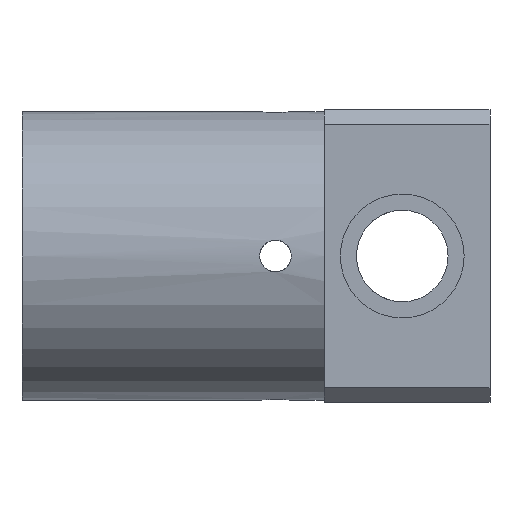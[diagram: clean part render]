
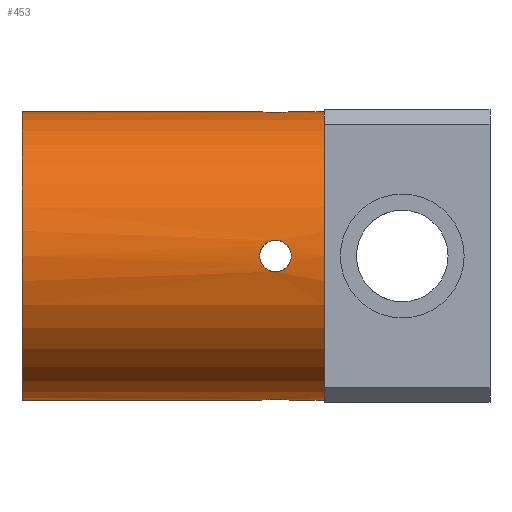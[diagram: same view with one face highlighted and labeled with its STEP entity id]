
A CAD part, left-side view. The second image highlights one B-rep face of the part: STEP entity #453.
In plain terms, the highlighted cylindrical face has radius 14.8 mm (diameter 29.6 mm), a full revolution.
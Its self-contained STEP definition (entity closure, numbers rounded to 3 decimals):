
#87=B_SPLINE_CURVE_WITH_KNOTS('',3,(#660,#661,#662,#663,#664,#665,#666,
#667,#668,#669,#670),.UNSPECIFIED.,.T.,.F.,(1,1,1,1,1,1,1,1,1,1,1,1,1,1,
1),(-0.004,-0.003,-0.001,0.,0.001,
0.003,0.004,0.005,0.006,
0.008,0.009,0.01,0.011,
0.013,0.014),.UNSPECIFIED.);
#88=B_SPLINE_CURVE_WITH_KNOTS('',3,(#672,#673,#674,#675,#676,#677,#678,
#679,#680,#681,#682),.UNSPECIFIED.,.T.,.F.,(1,1,1,1,1,1,1,1,1,1,1,1,1,1,
1),(-0.004,-0.003,-0.001,0.,0.001,
0.003,0.004,0.005,0.006,
0.008,0.009,0.01,0.011,
0.013,0.014),.UNSPECIFIED.);
#89=B_SPLINE_CURVE_WITH_KNOTS('',3,(#684,#685,#686,#687,#688,#689,#690,
#691,#692,#693,#694),.UNSPECIFIED.,.T.,.F.,(1,1,1,1,1,1,1,1,1,1,1,1,1,1,
1),(-0.004,-0.003,-0.001,0.,0.001,
0.003,0.004,0.005,0.006,
0.008,0.009,0.01,0.011,
0.013,0.014),.UNSPECIFIED.);
#90=B_SPLINE_CURVE_WITH_KNOTS('',3,(#696,#697,#698,#699,#700,#701,#702,
#703,#704,#705,#706),.UNSPECIFIED.,.T.,.F.,(1,1,1,1,1,1,1,1,1,1,1,1,1,1,
1),(-0.004,-0.003,-0.001,0.,0.001,
0.003,0.004,0.005,0.006,
0.008,0.009,0.01,0.011,
0.013,0.014),.UNSPECIFIED.);
#103=ORIENTED_EDGE('',*,*,#215,.F.);
#104=ORIENTED_EDGE('',*,*,#216,.F.);
#105=ORIENTED_EDGE('',*,*,#217,.F.);
#106=ORIENTED_EDGE('',*,*,#218,.F.);
#107=ORIENTED_EDGE('',*,*,#219,.F.);
#108=ORIENTED_EDGE('',*,*,#220,.T.);
#215=EDGE_CURVE('',#271,#271,#315,.T.);
#216=EDGE_CURVE('',#272,#272,#87,.T.);
#217=EDGE_CURVE('',#273,#273,#88,.T.);
#218=EDGE_CURVE('',#274,#274,#89,.T.);
#219=EDGE_CURVE('',#275,#275,#90,.T.);
#220=EDGE_CURVE('',#276,#276,#316,.T.);
#271=VERTEX_POINT('',#659);
#272=VERTEX_POINT('',#671);
#273=VERTEX_POINT('',#683);
#274=VERTEX_POINT('',#695);
#275=VERTEX_POINT('',#707);
#276=VERTEX_POINT('',#709);
#315=CIRCLE('',#496,14.8);
#316=CIRCLE('',#497,14.8);
#331=EDGE_LOOP('',(#103));
#332=EDGE_LOOP('',(#104));
#333=EDGE_LOOP('',(#105));
#334=EDGE_LOOP('',(#106));
#335=EDGE_LOOP('',(#107));
#336=EDGE_LOOP('',(#108));
#387=FACE_BOUND('',#331,.T.);
#388=FACE_BOUND('',#332,.T.);
#389=FACE_BOUND('',#333,.T.);
#390=FACE_BOUND('',#334,.T.);
#391=FACE_BOUND('',#335,.T.);
#392=FACE_BOUND('',#336,.T.);
#443=CYLINDRICAL_SURFACE('',#495,14.8);
#453=ADVANCED_FACE('',(#387,#388,#389,#390,#391,#392),#443,.T.);
#495=AXIS2_PLACEMENT_3D('',#657,#542,#543);
#496=AXIS2_PLACEMENT_3D('',#658,#544,#545);
#497=AXIS2_PLACEMENT_3D('',#708,#546,#547);
#542=DIRECTION('',(0.,-1.,0.));
#543=DIRECTION('',(0.,0.,-1.));
#544=DIRECTION('',(0.,-1.,0.));
#545=DIRECTION('',(0.,0.,-1.));
#546=DIRECTION('',(0.,-1.,0.));
#547=DIRECTION('',(0.,0.,-1.));
#657=CARTESIAN_POINT('',(0.,17.,0.));
#658=CARTESIAN_POINT('',(0.,17.,0.));
#659=CARTESIAN_POINT('',(0.,17.,-14.8));
#660=CARTESIAN_POINT('',(14.756,23.275,1.272));
#661=CARTESIAN_POINT('',(14.688,22.,1.801));
#662=CARTESIAN_POINT('',(14.755,20.726,1.273));
#663=CARTESIAN_POINT('',(14.822,20.199,0.001));
#664=CARTESIAN_POINT('',(14.755,20.726,-1.273));
#665=CARTESIAN_POINT('',(14.688,22.,-1.801));
#666=CARTESIAN_POINT('',(14.755,23.272,-1.275));
#667=CARTESIAN_POINT('',(14.822,23.801,-0.002));
#668=CARTESIAN_POINT('',(14.756,23.275,1.272));
#669=CARTESIAN_POINT('',(14.688,22.,1.801));
#670=CARTESIAN_POINT('',(14.755,20.726,1.273));
#671=CARTESIAN_POINT('',(14.711,22.,1.625));
#672=CARTESIAN_POINT('',(-1.272,23.275,14.756));
#673=CARTESIAN_POINT('',(-1.801,22.,14.688));
#674=CARTESIAN_POINT('',(-1.273,20.726,14.755));
#675=CARTESIAN_POINT('',(-0.001,20.199,14.822));
#676=CARTESIAN_POINT('',(1.273,20.726,14.755));
#677=CARTESIAN_POINT('',(1.801,22.,14.688));
#678=CARTESIAN_POINT('',(1.275,23.272,14.755));
#679=CARTESIAN_POINT('',(0.002,23.801,14.822));
#680=CARTESIAN_POINT('',(-1.272,23.275,14.756));
#681=CARTESIAN_POINT('',(-1.801,22.,14.688));
#682=CARTESIAN_POINT('',(-1.273,20.726,14.755));
#683=CARTESIAN_POINT('',(-1.625,22.,14.711));
#684=CARTESIAN_POINT('',(-1.275,23.272,-14.755));
#685=CARTESIAN_POINT('',(0.,23.801,-14.822));
#686=CARTESIAN_POINT('',(1.274,23.273,-14.755));
#687=CARTESIAN_POINT('',(1.801,22.001,-14.688));
#688=CARTESIAN_POINT('',(1.274,20.727,-14.755));
#689=CARTESIAN_POINT('',(0.,20.199,-14.822));
#690=CARTESIAN_POINT('',(-1.272,20.725,-14.756));
#691=CARTESIAN_POINT('',(-1.801,21.998,-14.688));
#692=CARTESIAN_POINT('',(-1.275,23.272,-14.755));
#693=CARTESIAN_POINT('',(0.,23.801,-14.822));
#694=CARTESIAN_POINT('',(1.274,23.273,-14.755));
#695=CARTESIAN_POINT('',(0.,23.625,-14.8));
#696=CARTESIAN_POINT('',(-14.756,20.725,1.272));
#697=CARTESIAN_POINT('',(-14.688,22.,1.801));
#698=CARTESIAN_POINT('',(-14.755,23.274,1.273));
#699=CARTESIAN_POINT('',(-14.822,23.801,0.001));
#700=CARTESIAN_POINT('',(-14.755,23.274,-1.273));
#701=CARTESIAN_POINT('',(-14.688,22.,-1.801));
#702=CARTESIAN_POINT('',(-14.755,20.728,-1.275));
#703=CARTESIAN_POINT('',(-14.822,20.199,-0.002));
#704=CARTESIAN_POINT('',(-14.756,20.725,1.272));
#705=CARTESIAN_POINT('',(-14.688,22.,1.801));
#706=CARTESIAN_POINT('',(-14.755,23.274,1.273));
#707=CARTESIAN_POINT('',(-14.711,22.,1.625));
#708=CARTESIAN_POINT('',(0.,48.,0.));
#709=CARTESIAN_POINT('',(0.,48.,-14.8));
